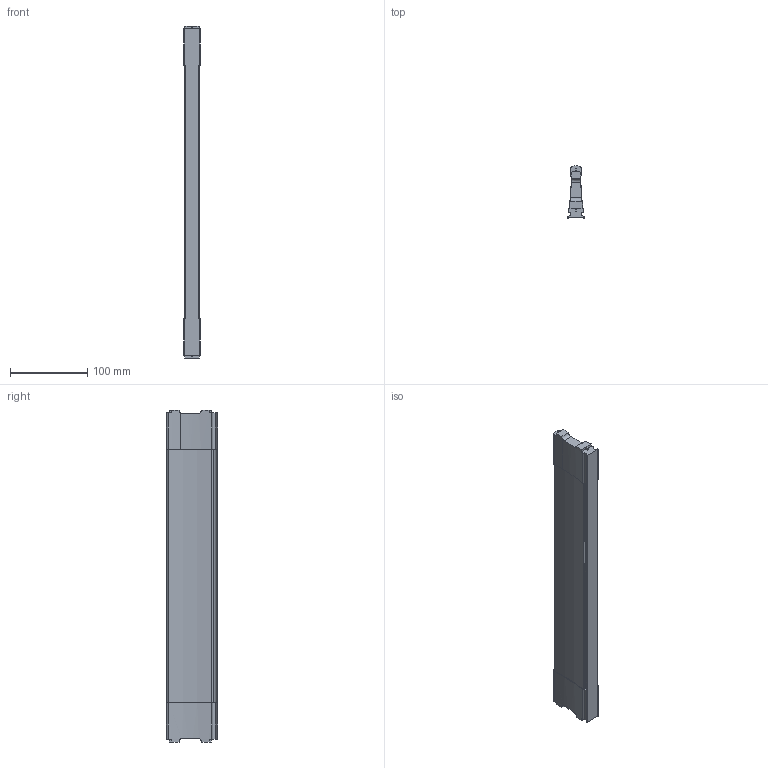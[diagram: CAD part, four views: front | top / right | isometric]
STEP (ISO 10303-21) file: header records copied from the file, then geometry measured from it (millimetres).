
FILE_DESCRIPTION (( 'STEP AP214' ), '1' );
FILE_NAME ('Traverse NOVAPro NL450 Mass X425,4_montiert.step', '2010-09-21T13:16:56', ( 'grass' ), ( '' ), 'SwSTEP 2.0', 'SolidWorks 2010', '' );
FILE_SCHEMA (( 'AUTOMOTIVE_DESIGN' ));
Length unit declared in the file: millimetre
Products named in the file (1): Traverse NOVAPro NL450 Mass X425,4_montiert
Bounding box: 21.4 x 67.5 x 431 mm (x, y, z)
Volume: 361131.7 mm3; surface area: 75409.1 mm2
Topology: 1 solids, 1 shells, 125 faces, 369 edges, 246 vertices
Faces by surface type: cylinder 68, plane 57
Entity records: 4377 total; most frequent: CARTESIAN_POINT 879, DIRECTION 753, ORIENTED_EDGE 738, EDGE_CURVE 369, AXIS2_PLACEMENT_3D 268, VERTEX_POINT 246, VECTOR 217, LINE 217
